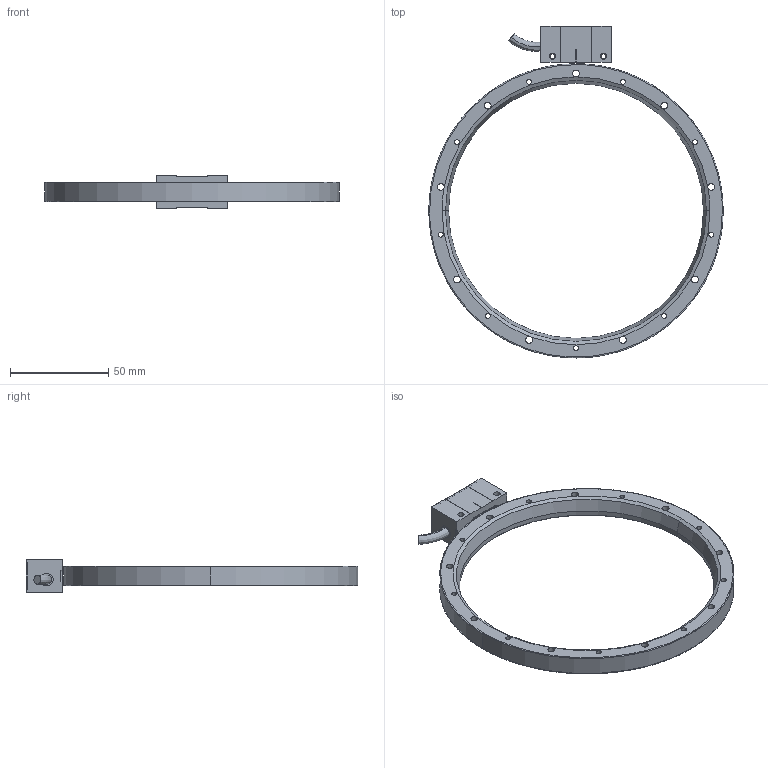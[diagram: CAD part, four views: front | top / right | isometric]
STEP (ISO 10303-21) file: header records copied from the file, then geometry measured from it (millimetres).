
FILE_DESCRIPTION (( 'STEP AP214' ), '1' );
FILE_NAME ('橈勤硉埴掑150郪磁.STEP', '2021-08-19T02:48:01', ( '' ), ( '' ), 'SwSTEP 2.0', 'SolidWorks 2016', '' );
FILE_SCHEMA (( 'AUTOMOTIVE_DESIGN' ));
Length unit declared in the file: millimetre
Products named in the file (3): 埴嫖掑馱璃_150; 橈勤硉俋倛_2; 橈勤硉埴掑150郪磁
Assembly tree (2 placements, depth 2):
  橈勤硉埴掑150郪磁
    橈勤硉俋倛_2
    埴嫖掑馱璃_150
Bounding box: 150 x 169.2 x 16.5 mm (x, y, z)
Volume: 49381.8 mm3; surface area: 23879.8 mm2
Topology: 6 solids, 6 shells, 210 faces, 533 edges, 349 vertices
Faces by surface type: cylinder 120, plane 74, cone 10, bspline 6
Entity records: 9724 total; most frequent: CARTESIAN_POINT 1928, DIRECTION 1194, ORIENTED_EDGE 1058, EDGE_CURVE 529, AXIS2_PLACEMENT_3D 477, VERTEX_POINT 349, EDGE_LOOP 274, CIRCLE 268
